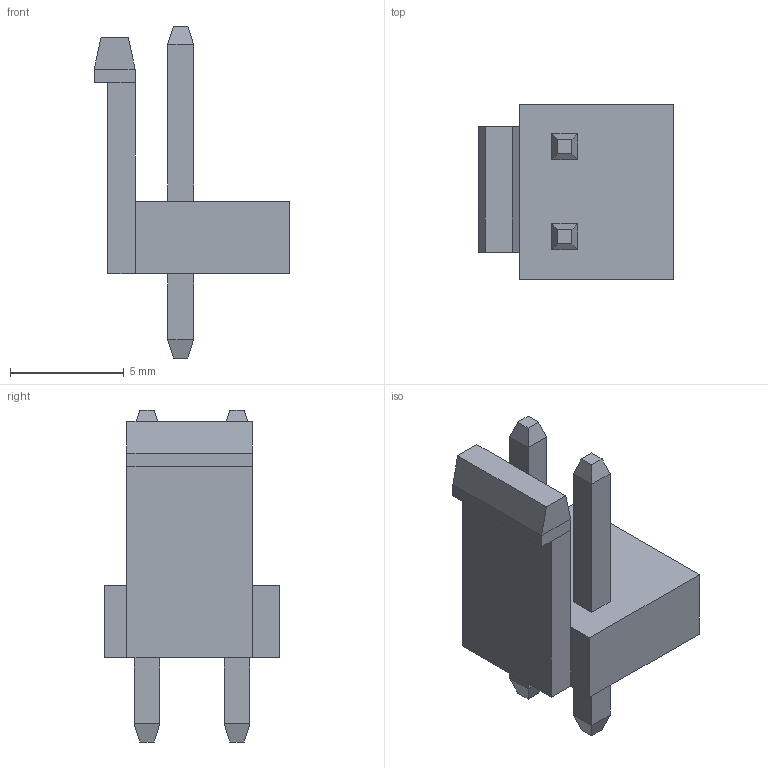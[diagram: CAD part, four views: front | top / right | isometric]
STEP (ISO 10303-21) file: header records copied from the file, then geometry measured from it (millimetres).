
FILE_DESCRIPTION(('FreeCAD Model'),'2;1');
FILE_NAME('Open CASCADE Shape Model','2021-06-28T19:29:44',('Author'),( ''),'Open CASCADE STEP processor 7.5','FreeCAD','Unknown');
FILE_SCHEMA(('AUTOMOTIVE_DESIGN { 1 0 10303 214 1 1 1 1 }'));
Length unit declared in the file: millimetre
Products named in the file (1): Group001
Bounding box: 8.6 x 7.72 x 14.6 mm (x, y, z)
Volume: 269.3 mm3; surface area: 418.6 mm2
Topology: 1 solids, 1 shells, 58 faces, 128 edges, 76 vertices
Faces by surface type: plane 58
Entity records: 3606 total; most frequent: CARTESIAN_POINT 535, DIRECTION 486, LINE 368, VECTOR 368, ORIENTED_EDGE 256, PCURVE 256, DEFINITIONAL_REPRESENTATION 256, EDGE_CURVE 128
